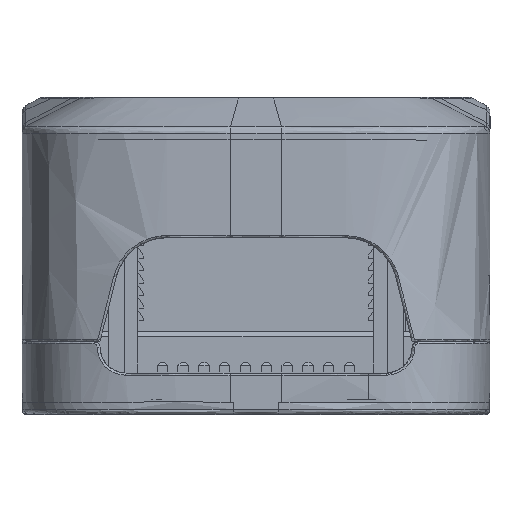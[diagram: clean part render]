
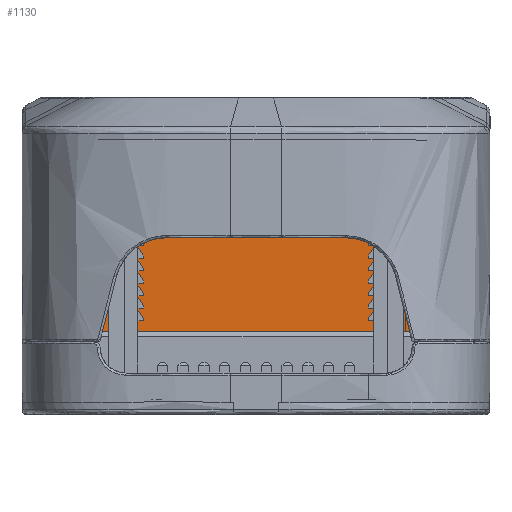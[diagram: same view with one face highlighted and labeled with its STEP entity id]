
A CAD part, left-side view. The second image highlights one B-rep face of the part: STEP entity #1130.
In plain terms, the highlighted planar face has unit normal (-1, 0, 0).
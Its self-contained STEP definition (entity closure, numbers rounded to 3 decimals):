
#1130=ADVANCED_FACE('',(#2562),#20840,.T.);
#2562=FACE_OUTER_BOUND('',#3993,.T.);
#3993=EDGE_LOOP('',(#9675,#9676,#9677,#9678));
#9675=ORIENTED_EDGE('',*,*,#11273,.F.);
#9676=ORIENTED_EDGE('',*,*,#11385,.T.);
#9677=ORIENTED_EDGE('',*,*,#11372,.T.);
#9678=ORIENTED_EDGE('',*,*,#11369,.F.);
#11273=EDGE_CURVE('',#17881,#17880,#14758,.T.);
#11369=EDGE_CURVE('',#17880,#17927,#14842,.T.);
#11372=EDGE_CURVE('',#17928,#17927,#14845,.T.);
#11385=EDGE_CURVE('',#17881,#17928,#14855,.T.);
#14758=B_SPLINE_CURVE_WITH_KNOTS('',1,(#33244,#33245),.UNSPECIFIED.,.F.,
 .F.,(2,2),(-32.987,0.),.UNSPECIFIED.);
#14842=B_SPLINE_CURVE_WITH_KNOTS('',1,(#33543,#33544),.UNSPECIFIED.,.F.,
 .F.,(2,2),(0.,25.2),.UNSPECIFIED.);
#14845=B_SPLINE_CURVE_WITH_KNOTS('',1,(#33557,#33558),.UNSPECIFIED.,.F.,
 .F.,(2,2),(0.,32.987),.UNSPECIFIED.);
#14855=B_SPLINE_CURVE_WITH_KNOTS('',1,(#33608,#33609),.UNSPECIFIED.,.F.,
 .F.,(2,2),(-25.2,0.),.UNSPECIFIED.);
#17880=VERTEX_POINT('',#30486);
#17881=VERTEX_POINT('',#30487);
#17927=VERTEX_POINT('',#30533);
#17928=VERTEX_POINT('',#30534);
#20840=PLANE('',#21866);
#21866=AXIS2_PLACEMENT_3D('',#30116,#22875,$);
#22875=DIRECTION('',(-1.,0.,0.));
#30116=CARTESIAN_POINT('',(-114.,-20.366,25.755));
#30486=CARTESIAN_POINT('',(-114.,16.494,-2.538));
#30487=CARTESIAN_POINT('',(-114.,-16.494,-2.538));
#30533=CARTESIAN_POINT('',(-114.,16.494,22.662));
#30534=CARTESIAN_POINT('',(-114.,-16.494,22.662));
#33244=CARTESIAN_POINT('',(-114.,-16.494,-2.538));
#33245=CARTESIAN_POINT('',(-114.,16.494,-2.538));
#33543=CARTESIAN_POINT('',(-114.,16.494,-2.538));
#33544=CARTESIAN_POINT('',(-114.,16.494,22.662));
#33557=CARTESIAN_POINT('',(-114.,-16.494,22.662));
#33558=CARTESIAN_POINT('',(-114.,16.494,22.662));
#33608=CARTESIAN_POINT('',(-114.,-16.494,-2.538));
#33609=CARTESIAN_POINT('',(-114.,-16.494,22.662));
